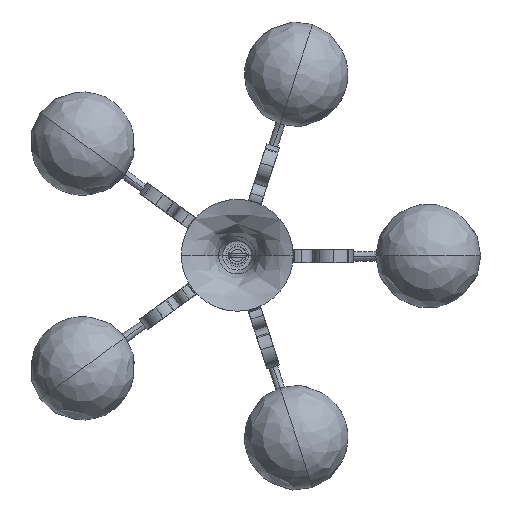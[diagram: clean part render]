
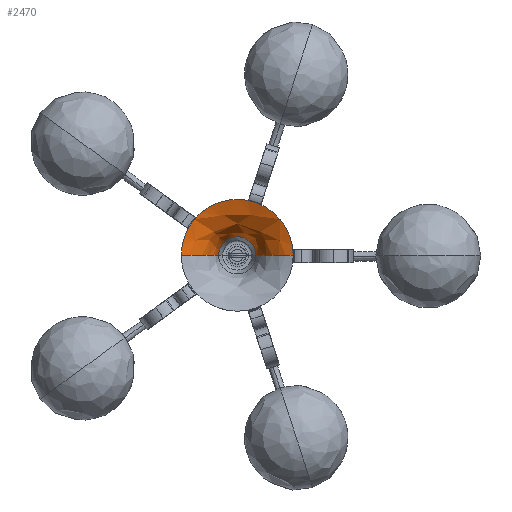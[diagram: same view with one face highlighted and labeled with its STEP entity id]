
A CAD part, top view. The second image highlights one B-rep face of the part: STEP entity #2470.
In plain terms, the highlighted free-form (B-spline) face has degree [2, 2] with [5, 3] control points.
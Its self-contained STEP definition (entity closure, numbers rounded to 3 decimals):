
#277=TRIMMED_CURVE($,#666,(#15001),(#15002),.T.,.CARTESIAN.);
#278=TRIMMED_CURVE($,#667,(#15004),(#15005),.T.,.CARTESIAN.);
#279=TRIMMED_CURVE($,#668,(#15007),(#15008),.T.,.CARTESIAN.);
#284=TRIMMED_CURVE($,#673,(#15029),(#15030),.T.,.CARTESIAN.);
#666=CIRCLE('',#11660,64.);
#667=CIRCLE('',#11661,57.25);
#668=CIRCLE('',#11662,21.298);
#673=CIRCLE('',#11667,57.25);
#2103=(
BOUNDED_SURFACE()
B_SPLINE_SURFACE(2,2,((#14892,#14893,#14894),(#14895,#14896,#14897),(#14898,
#14899,#14900),(#14901,#14902,#14903),(#14904,#14905,#14906)),
 .UNSPECIFIED.,.F.,.F.,.F.)
B_SPLINE_SURFACE_WITH_KNOTS((3,2,3),(3,3),(0.,125.664,251.327),
(143.502,224.138),.UNSPECIFIED.)
GEOMETRIC_REPRESENTATION_ITEM()
RATIONAL_B_SPLINE_SURFACE(((1.,0.845,1.),(0.707,
0.598,0.707),(1.,0.845,1.),(0.707,
0.598,0.707),(1.,0.845,1.)))
REPRESENTATION_ITEM('')
SURFACE()
);
#2470=ADVANCED_FACE('',(#3309),#2103,.T.);
#3309=FACE_OUTER_BOUND('',#4150,.T.);
#4150=EDGE_LOOP('',(#5076,#5077,#5078,#5079));
#5076=ORIENTED_EDGE('',*,*,#8308,.T.);
#5077=ORIENTED_EDGE('',*,*,#8301,.F.);
#5078=ORIENTED_EDGE('',*,*,#8300,.F.);
#5079=ORIENTED_EDGE('',*,*,#8299,.T.);
#8299=EDGE_CURVE('',#10204,#10209,#277,.T.);
#8300=EDGE_CURVE('',#10204,#10206,#278,.T.);
#8301=EDGE_CURVE('',#10206,#10210,#279,.T.);
#8308=EDGE_CURVE('',#10209,#10210,#284,.T.);
#10204=VERTEX_POINT('',#14980);
#10206=VERTEX_POINT('',#14982);
#10209=VERTEX_POINT('',#14985);
#10210=VERTEX_POINT('',#14986);
#11660=AXIS2_PLACEMENT_3D($,#15000,#12639,#12640);
#11661=AXIS2_PLACEMENT_3D($,#15003,#12641,#12642);
#11662=AXIS2_PLACEMENT_3D($,#15006,#12643,#12644);
#11667=AXIS2_PLACEMENT_3D($,#15028,#12653,#12654);
#12639=DIRECTION('',(0.,0.,-1.));
#12640=DIRECTION('',(-1.,0.,0.));
#12641=DIRECTION('',(0.,1.,0.));
#12642=DIRECTION('',(0.232,0.,0.973));
#12643=DIRECTION('',(0.,0.,-1.));
#12644=DIRECTION('',(-1.,0.,0.));
#12653=DIRECTION('',(0.,-1.,0.));
#12654=DIRECTION('',(-0.232,0.,0.973));
#14892=CARTESIAN_POINT('',(54.462,170.126,589.049));
#14893=CARTESIAN_POINT('',(89.638,170.126,580.651));
#14894=CARTESIAN_POINT('',(97.164,170.126,545.278));
#14895=CARTESIAN_POINT('',(54.462,234.126,589.049));
#14896=CARTESIAN_POINT('',(89.638,198.95,580.651));
#14897=CARTESIAN_POINT('',(97.164,191.424,545.278));
#14898=CARTESIAN_POINT('',(118.462,234.126,589.049));
#14899=CARTESIAN_POINT('',(118.462,198.95,580.651));
#14900=CARTESIAN_POINT('',(118.462,191.424,545.278));
#14901=CARTESIAN_POINT('',(182.462,234.126,589.049));
#14902=CARTESIAN_POINT('',(147.286,198.95,580.651));
#14903=CARTESIAN_POINT('',(139.76,191.424,545.278));
#14904=CARTESIAN_POINT('',(182.462,170.126,589.049));
#14905=CARTESIAN_POINT('',(147.286,170.126,580.651));
#14906=CARTESIAN_POINT('',(139.76,170.126,545.278));
#14980=CARTESIAN_POINT('',(54.462,170.126,589.049));
#14982=CARTESIAN_POINT('',(97.164,170.126,545.278));
#14985=CARTESIAN_POINT('',(182.462,170.126,589.049));
#14986=CARTESIAN_POINT('',(139.76,170.126,545.278));
#15000=CARTESIAN_POINT('',(118.462,170.126,589.049));
#15001=CARTESIAN_POINT('',(54.462,170.126,589.049));
#15002=CARTESIAN_POINT('',(182.462,170.126,589.049));
#15003=CARTESIAN_POINT('',(41.167,170.126,533.364));
#15004=CARTESIAN_POINT('',(54.462,170.126,589.049));
#15005=CARTESIAN_POINT('',(97.164,170.126,545.278));
#15006=CARTESIAN_POINT('',(118.462,170.126,545.278));
#15007=CARTESIAN_POINT('',(97.164,170.126,545.278));
#15008=CARTESIAN_POINT('',(139.76,170.126,545.278));
#15028=CARTESIAN_POINT('',(195.757,170.126,533.364));
#15029=CARTESIAN_POINT('',(182.462,170.126,589.049));
#15030=CARTESIAN_POINT('',(139.76,170.126,545.278));
